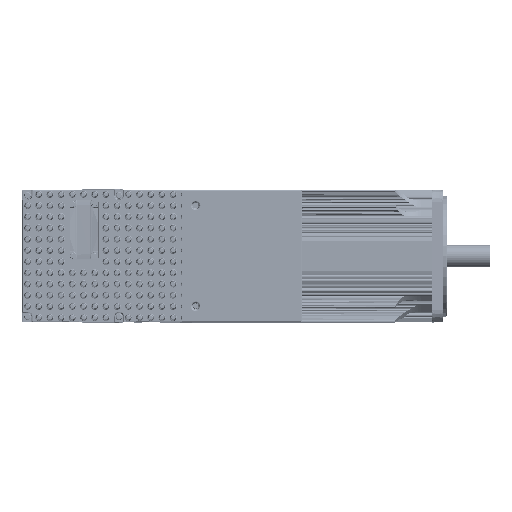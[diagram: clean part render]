
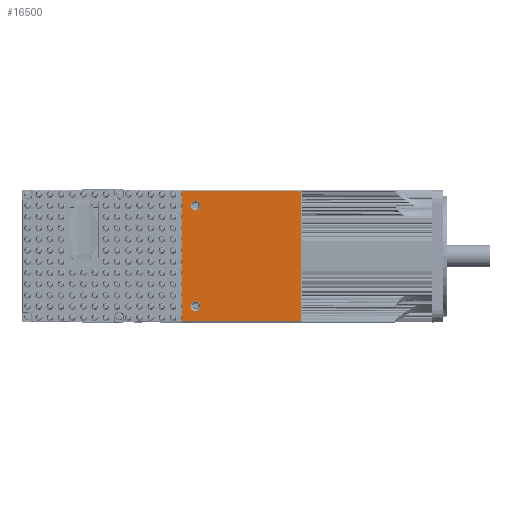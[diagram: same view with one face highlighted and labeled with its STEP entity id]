
A CAD part, top view. The second image highlights one B-rep face of the part: STEP entity #16500.
In plain terms, the highlighted planar face has unit normal (0, 0, 1).
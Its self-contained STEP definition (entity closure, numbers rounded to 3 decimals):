
#16500 = ADVANCED_FACE( 'PartBody', ( #39491, #39492, #39493 ), #39494, .T. );
#39491 = FACE_OUTER_BOUND( '', #87221, .T. );
#39492 = FACE_BOUND( '', #87222, .T. );
#39493 = FACE_BOUND( '', #87223, .T. );
#39494 = PLANE( '', #87224 );
#87221 = EDGE_LOOP( '', ( #179924, #179925, #179926, #179927 ) );
#87222 = EDGE_LOOP( '', ( #179928 ) );
#87223 = EDGE_LOOP( '', ( #179929 ) );
#87224 = AXIS2_PLACEMENT_3D( '', #179930, #179931, #179932 );
#179924 = ORIENTED_EDGE( '', *, *, #241685, .F. );
#179925 = ORIENTED_EDGE( '', *, *, #252705, .F. );
#179926 = ORIENTED_EDGE( '', *, *, #252706, .F. );
#179927 = ORIENTED_EDGE( '', *, *, #252707, .F. );
#179928 = ORIENTED_EDGE( '', *, *, #252708, .F. );
#179929 = ORIENTED_EDGE( '', *, *, #245889, .F. );
#179930 = CARTESIAN_POINT( '', ( 0., 0., 151. ) );
#179931 = DIRECTION( '', ( 0., 0., 1. ) );
#179932 = DIRECTION( '', ( 1., 0., 0. ) );
#241685 = EDGE_CURVE( '', #275132, #275134, #275135, .T. );
#245889 = EDGE_CURVE( '', #282469, #282469, #282470, .T. );
#252705 = EDGE_CURVE( '', #275306, #275132, #293741, .T. );
#252706 = EDGE_CURVE( '', #293742, #275306, #293743, .T. );
#252707 = EDGE_CURVE( '', #275134, #293742, #293744, .T. );
#252708 = EDGE_CURVE( '', #293745, #293745, #293746, .T. );
#275132 = VERTEX_POINT( '', #323851 );
#275134 = VERTEX_POINT( '', #323853 );
#275135 = LINE( '', #323854, #323855 );
#275306 = VERTEX_POINT( '', #324434 );
#282469 = VERTEX_POINT( '', #339783 );
#282470 = CIRCLE( '', #339784, 5.288 );
#293741 = LINE( '', #361964, #361965 );
#293742 = VERTEX_POINT( '', #361966 );
#293743 = LINE( '', #361967, #361968 );
#293744 = LINE( '', #361969, #361970 );
#293745 = VERTEX_POINT( '', #361971 );
#293746 = CIRCLE( '', #361972, 5.288 );
#323851 = CARTESIAN_POINT( '', ( 51., -69.5, 151. ) );
#323853 = CARTESIAN_POINT( '', ( 51., 69.5, 151. ) );
#323854 = CARTESIAN_POINT( '', ( 51., 0., 151. ) );
#323855 = VECTOR( '', #417347, 1000. );
#324434 = CARTESIAN_POINT( '', ( 178.5, -69.5, 151. ) );
#339783 = CARTESIAN_POINT( '', ( 71.288, 54., 151. ) );
#339784 = AXIS2_PLACEMENT_3D( '', #422337, #422338, #422339 );
#361964 = CARTESIAN_POINT( '', ( 114.75, -69.5, 151. ) );
#361965 = VECTOR( '', #431181, 1000. );
#361966 = CARTESIAN_POINT( '', ( 178.5, 69.5, 151. ) );
#361967 = CARTESIAN_POINT( '', ( 178.5, 0., 151. ) );
#361968 = VECTOR( '', #431182, 1000. );
#361969 = CARTESIAN_POINT( '', ( 114.75, 69.5, 151. ) );
#361970 = VECTOR( '', #431183, 1000. );
#361971 = CARTESIAN_POINT( '', ( 71.288, -54., 151. ) );
#361972 = AXIS2_PLACEMENT_3D( '', #431184, #431185, #431186 );
#417347 = DIRECTION( '', ( 0., 1., 0. ) );
#422337 = CARTESIAN_POINT( '', ( 66., 54., 151. ) );
#422338 = DIRECTION( '', ( 0., 0., 1. ) );
#422339 = DIRECTION( '', ( 1., 0., 0. ) );
#431181 = DIRECTION( '', ( -1., 0., 0. ) );
#431182 = DIRECTION( '', ( 0., -1., 0. ) );
#431183 = DIRECTION( '', ( 1., 0., 0. ) );
#431184 = CARTESIAN_POINT( '', ( 66., -54., 151. ) );
#431185 = DIRECTION( '', ( 0., 0., 1. ) );
#431186 = DIRECTION( '', ( 1., 0., 0. ) );
